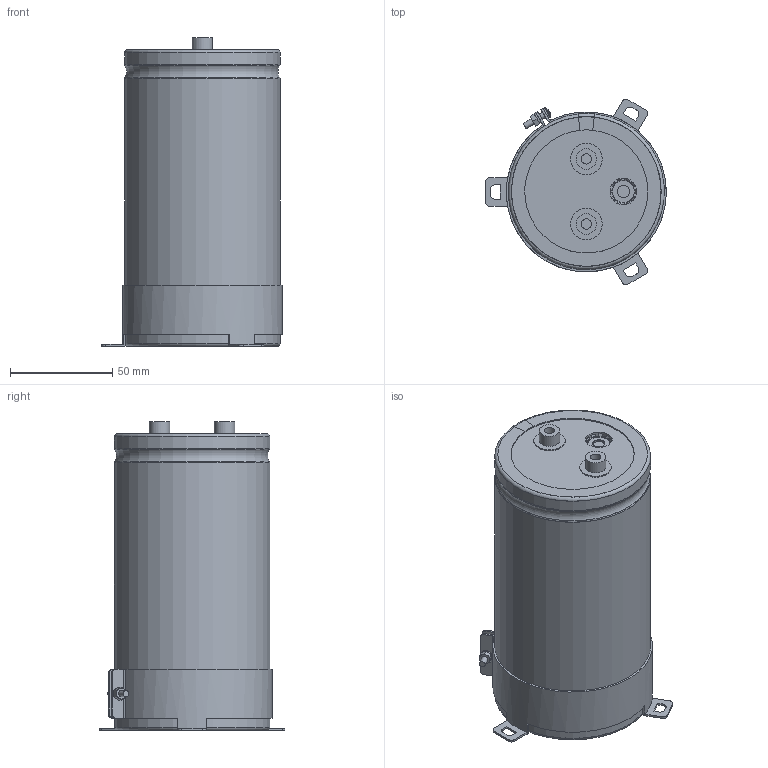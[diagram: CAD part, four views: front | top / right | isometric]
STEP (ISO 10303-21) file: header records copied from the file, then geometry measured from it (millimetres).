
FILE_DESCRIPTION(/* description */ (''),/* implementation_level */ '2;1');
FILE_NAME(/* name */ '76.2x145_Screw.stp',/* time_stamp */ '2017-09-17T13:32:32+09:00',/* author */ (''),/* organization */ (''),/* preprocessor_version */ 'ST-DEVELOPER v16',/* originating_system */ 'SIEMENS PLM Software NX 11.0',/* authorisation */ '');
FILE_SCHEMA (('AUTOMOTIVE_DESIGN { 1 0 10303 214 3 1 1 1 }'));
Length unit declared in the file: millimetre
Products named in the file (1): 76.2x145_Screw
Bounding box: 88.3 x 90.75 x 151 mm (x, y, z)
Volume: 663639.9 mm3; surface area: 134089.4 mm2
Topology: 9 solids, 9 shells, 259 faces, 642 edges, 413 vertices
Faces by surface type: plane 112, cylinder 66, torus 49, cone 31, sphere 1
Full cylindrical faces by diameter (mm): 3 x5, 5 x2, 5.5 x2, 6 x4, 8 x1, 10 x2, 13 x2, 15.5 x2, 75 x2
Entity records: 8534 total; most frequent: CARTESIAN_POINT 2182, DIRECTION 1296, ORIENTED_EDGE 1214, EDGE_CURVE 607, AXIS2_PLACEMENT_3D 541, VERTEX_POINT 408, EDGE_LOOP 317, CIRCLE 281
